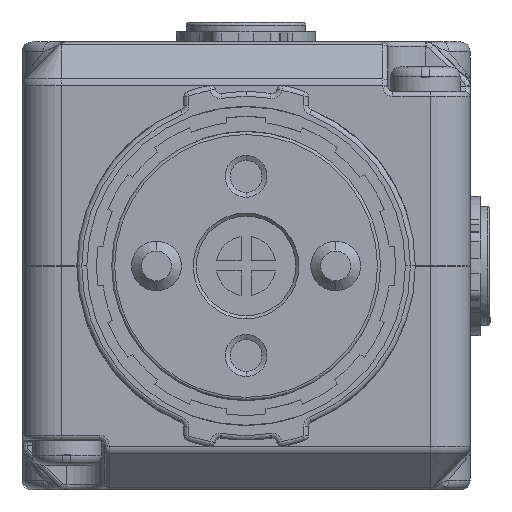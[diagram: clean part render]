
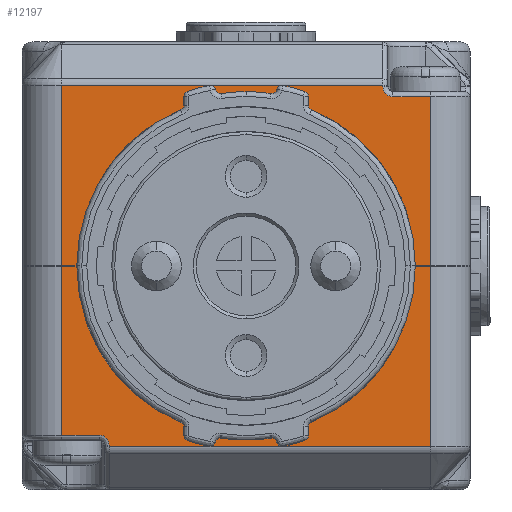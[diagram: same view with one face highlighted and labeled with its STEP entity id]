
A CAD part, front view. The second image highlights one B-rep face of the part: STEP entity #12197.
In plain terms, the highlighted planar face has unit normal (0, -1, 0).
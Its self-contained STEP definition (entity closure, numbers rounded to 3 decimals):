
#170 = DIRECTION ( 'NONE',  ( 0., 0., -1. ) ) ;
#343 = EDGE_CURVE ( 'NONE', #38930, #20637, #19521, .T. ) ;
#666 = DIRECTION ( 'NONE',  ( -1., 0., 0. ) ) ;
#1453 = LINE ( 'NONE', #21931, #29150 ) ;
#1990 = EDGE_CURVE ( 'NONE', #28462, #29375, #8835, .T. ) ;
#2221 = DIRECTION ( 'NONE',  ( 1., 0., 0. ) ) ;
#2497 = LINE ( 'NONE', #23404, #35723 ) ;
#2746 = ORIENTED_EDGE ( 'NONE', *, *, #5090, .T. ) ;
#3076 = ORIENTED_EDGE ( 'NONE', *, *, #30059, .F. ) ;
#3426 = CARTESIAN_POINT ( 'NONE',  ( -23.321, -20.132, 57.005 ) ) ;
#3773 = DIRECTION ( 'NONE',  ( 0., 0., 1. ) ) ;
#3867 = ORIENTED_EDGE ( 'NONE', *, *, #33394, .T. ) ;
#4134 = EDGE_LOOP ( 'NONE', ( #15207, #21468, #14373, #3867, #23503, #30974, #5547, #2746, #18899, #16372, #3076, #20361, #39475, #30548, #33666, #11699, #35603, #31681 ) ) ;
#4299 = VECTOR ( 'NONE', #2221, 1000. ) ;
#4551 = CARTESIAN_POINT ( 'NONE',  ( 6.179, -20.132, 71.505 ) ) ;
#4737 = CARTESIAN_POINT ( 'NONE',  ( 2.429, -20.132, 66.005 ) ) ;
#4925 = VECTOR ( 'NONE', #34954, 1000. ) ;
#5090 = EDGE_CURVE ( 'NONE', #39727, #31071, #16325, .T. ) ;
#5092 = CARTESIAN_POINT ( 'NONE',  ( -30.821, -20.132, 49.01 ) ) ;
#5099 = VERTEX_POINT ( 'NONE', #5092 ) ;
#5160 = CARTESIAN_POINT ( 'NONE',  ( -34.821, -20.132, 49.01 ) ) ;
#5334 = CARTESIAN_POINT ( 'NONE',  ( -1.321, -20.132, 49.01 ) ) ;
#5547 = ORIENTED_EDGE ( 'NONE', *, *, #8836, .T. ) ;
#5857 = CARTESIAN_POINT ( 'NONE',  ( -1.321, -20.132, 49. ) ) ;
#5912 = VECTOR ( 'NONE', #10889, 1000. ) ;
#5946 = CARTESIAN_POINT ( 'NONE',  ( -1.321, -20.132, 57.005 ) ) ;
#6091 = VERTEX_POINT ( 'NONE', #34234 ) ;
#6597 = VECTOR ( 'NONE', #170, 1000. ) ;
#6644 = EDGE_CURVE ( 'NONE', #31071, #5099, #29248, .T. ) ;
#7282 = AXIS2_PLACEMENT_3D ( 'NONE', #38946, #22914, #3773 ) ;
#7486 = CARTESIAN_POINT ( 'NONE',  ( 1.429, -20.132, 67.091 ) ) ;
#8270 = EDGE_CURVE ( 'NONE', #9321, #39621, #22116, .T. ) ;
#8770 = EDGE_CURVE ( 'NONE', #14725, #18382, #35670, .T. ) ;
#8835 = CIRCLE ( 'NONE', #7282, 1. ) ;
#8836 = EDGE_CURVE ( 'NONE', #29375, #39727, #11470, .T. ) ;
#9321 = VERTEX_POINT ( 'NONE', #10229 ) ;
#9436 = EDGE_CURVE ( 'NONE', #14529, #18382, #26549, .T. ) ;
#9543 = PLANE ( 'NONE',  #36072 ) ;
#10073 = CARTESIAN_POINT ( 'NONE',  ( 1.929, -20.132, 66.005 ) ) ;
#10229 = CARTESIAN_POINT ( 'NONE',  ( -26.071, -20.132, 31.005 ) ) ;
#10501 = DIRECTION ( 'NONE',  ( 0., 1., 0. ) ) ;
#10585 = VECTOR ( 'NONE', #30248, 1000. ) ;
#10729 = LINE ( 'NONE', #23017, #28419 ) ;
#10889 = DIRECTION ( 'NONE',  ( -1., 0., 0. ) ) ;
#11470 = LINE ( 'NONE', #41389, #27601 ) ;
#11699 = ORIENTED_EDGE ( 'NONE', *, *, #8270, .T. ) ;
#11852 = CARTESIAN_POINT ( 'NONE',  ( -30.821, -20.132, 67.091 ) ) ;
#12197 = ADVANCED_FACE ( 'NONE', ( #28368 ), #9543, .F. ) ;
#12779 = VERTEX_POINT ( 'NONE', #18607 ) ;
#12851 = CARTESIAN_POINT ( 'NONE',  ( -26.071, -20.132, 30.919 ) ) ;
#12870 = LINE ( 'NONE', #5160, #4299 ) ;
#13539 = DIRECTION ( 'NONE',  ( 0., 0., 1. ) ) ;
#14373 = ORIENTED_EDGE ( 'NONE', *, *, #18207, .T. ) ;
#14529 = VERTEX_POINT ( 'NONE', #26202 ) ;
#14725 = VERTEX_POINT ( 'NONE', #5334 ) ;
#15036 = CIRCLE ( 'NONE', #34422, 1. ) ;
#15207 = ORIENTED_EDGE ( 'NONE', *, *, #9436, .T. ) ;
#15738 = VECTOR ( 'NONE', #35370, 1000. ) ;
#15949 = VERTEX_POINT ( 'NONE', #30502 ) ;
#15953 = CARTESIAN_POINT ( 'NONE',  ( -26.571, -20.132, 32.005 ) ) ;
#16279 = LINE ( 'NONE', #3426, #15738 ) ;
#16325 = LINE ( 'NONE', #11852, #39422 ) ;
#16372 = ORIENTED_EDGE ( 'NONE', *, *, #32426, .T. ) ;
#17011 = CARTESIAN_POINT ( 'NONE',  ( -27.071, -20.132, 31.005 ) ) ;
#17620 = EDGE_CURVE ( 'NONE', #21991, #14529, #33558, .T. ) ;
#18207 = EDGE_CURVE ( 'NONE', #14725, #6091, #12870, .T. ) ;
#18382 = VERTEX_POINT ( 'NONE', #5857 ) ;
#18457 = EDGE_CURVE ( 'NONE', #12779, #28462, #40529, .T. ) ;
#18607 = CARTESIAN_POINT ( 'NONE',  ( 6.179, -20.132, 66.005 ) ) ;
#18899 = ORIENTED_EDGE ( 'NONE', *, *, #6644, .T. ) ;
#19521 = LINE ( 'NONE', #35488, #23538 ) ;
#19551 = CARTESIAN_POINT ( 'NONE',  ( 6.179, -20.132, 30.919 ) ) ;
#20361 = ORIENTED_EDGE ( 'NONE', *, *, #38535, .T. ) ;
#20637 = VERTEX_POINT ( 'NONE', #34142 ) ;
#21468 = ORIENTED_EDGE ( 'NONE', *, *, #8770, .F. ) ;
#21791 = DIRECTION ( 'NONE',  ( 1., 0., 0. ) ) ;
#21931 = CARTESIAN_POINT ( 'NONE',  ( 6.179, -20.132, 30.919 ) ) ;
#21991 = VERTEX_POINT ( 'NONE', #19551 ) ;
#22082 = EDGE_CURVE ( 'NONE', #15949, #9321, #15036, .T. ) ;
#22116 = LINE ( 'NONE', #32309, #23124 ) ;
#22217 = CARTESIAN_POINT ( 'NONE',  ( -34.821, -20.132, 71.505 ) ) ;
#22388 = DIRECTION ( 'NONE',  ( 0., 0., -1. ) ) ;
#22420 = VECTOR ( 'NONE', #35423, 1000. ) ;
#22555 = DIRECTION ( 'NONE',  ( 1., 0., 0. ) ) ;
#22914 = DIRECTION ( 'NONE',  ( 0., 1., 0. ) ) ;
#23017 = CARTESIAN_POINT ( 'NONE',  ( -34.821, -20.132, 49. ) ) ;
#23124 = VECTOR ( 'NONE', #41446, 1000. ) ;
#23339 = DIRECTION ( 'NONE',  ( 0., 0., 1. ) ) ;
#23404 = CARTESIAN_POINT ( 'NONE',  ( 6.179, -20.132, 71.505 ) ) ;
#23503 = ORIENTED_EDGE ( 'NONE', *, *, #18457, .T. ) ;
#23531 = VECTOR ( 'NONE', #22555, 1000. ) ;
#23538 = VECTOR ( 'NONE', #22388, 1000. ) ;
#23924 = VERTEX_POINT ( 'NONE', #30319 ) ;
#24483 = EDGE_CURVE ( 'NONE', #39621, #21991, #1453, .T. ) ;
#25744 = CARTESIAN_POINT ( 'NONE',  ( -30.821, -20.132, 71.505 ) ) ;
#25891 = CARTESIAN_POINT ( 'NONE',  ( 1.429, -20.132, 67.005 ) ) ;
#26202 = CARTESIAN_POINT ( 'NONE',  ( 6.179, -20.132, 49. ) ) ;
#26549 = LINE ( 'NONE', #33282, #5912 ) ;
#26617 = CARTESIAN_POINT ( 'NONE',  ( -34.821, -20.132, 49.01 ) ) ;
#27601 = VECTOR ( 'NONE', #35081, 1000. ) ;
#28058 = LINE ( 'NONE', #15953, #23531 ) ;
#28368 = FACE_OUTER_BOUND ( 'NONE', #4134, .T. ) ;
#28419 = VECTOR ( 'NONE', #666, 1000. ) ;
#28462 = VERTEX_POINT ( 'NONE', #4737 ) ;
#29150 = VECTOR ( 'NONE', #21791, 1000. ) ;
#29248 = LINE ( 'NONE', #25744, #6597 ) ;
#29375 = VERTEX_POINT ( 'NONE', #25891 ) ;
#30059 = EDGE_CURVE ( 'NONE', #23924, #30834, #16279, .T. ) ;
#30248 = DIRECTION ( 'NONE',  ( 1., 0., 0. ) ) ;
#30319 = CARTESIAN_POINT ( 'NONE',  ( -23.321, -20.132, 49. ) ) ;
#30502 = CARTESIAN_POINT ( 'NONE',  ( -27.071, -20.132, 32.005 ) ) ;
#30548 = ORIENTED_EDGE ( 'NONE', *, *, #34850, .T. ) ;
#30834 = VERTEX_POINT ( 'NONE', #35265 ) ;
#30974 = ORIENTED_EDGE ( 'NONE', *, *, #1990, .T. ) ;
#31071 = VERTEX_POINT ( 'NONE', #33961 ) ;
#31073 = CARTESIAN_POINT ( 'NONE',  ( -30.821, -20.132, 49. ) ) ;
#31681 = ORIENTED_EDGE ( 'NONE', *, *, #17620, .T. ) ;
#31922 = DIRECTION ( 'NONE',  ( 0., 0., 1. ) ) ;
#32309 = CARTESIAN_POINT ( 'NONE',  ( -26.071, -20.132, 71.505 ) ) ;
#32426 = EDGE_CURVE ( 'NONE', #5099, #30834, #34802, .T. ) ;
#33282 = CARTESIAN_POINT ( 'NONE',  ( -34.821, -20.132, 49. ) ) ;
#33394 = EDGE_CURVE ( 'NONE', #6091, #12779, #2497, .T. ) ;
#33558 = LINE ( 'NONE', #4551, #37068 ) ;
#33666 = ORIENTED_EDGE ( 'NONE', *, *, #22082, .T. ) ;
#33961 = CARTESIAN_POINT ( 'NONE',  ( -30.821, -20.132, 67.091 ) ) ;
#33974 = DIRECTION ( 'NONE',  ( 0., 0., 1. ) ) ;
#34142 = CARTESIAN_POINT ( 'NONE',  ( -30.821, -20.132, 32.005 ) ) ;
#34234 = CARTESIAN_POINT ( 'NONE',  ( 6.179, -20.132, 49.01 ) ) ;
#34422 = AXIS2_PLACEMENT_3D ( 'NONE', #17011, #10501, #23339 ) ;
#34802 = LINE ( 'NONE', #26617, #10585 ) ;
#34850 = EDGE_CURVE ( 'NONE', #20637, #15949, #28058, .T. ) ;
#34954 = DIRECTION ( 'NONE',  ( 0., 0., -1. ) ) ;
#35081 = DIRECTION ( 'NONE',  ( 0., 0., 1. ) ) ;
#35265 = CARTESIAN_POINT ( 'NONE',  ( -23.321, -20.132, 49.01 ) ) ;
#35370 = DIRECTION ( 'NONE',  ( 0., 0., 1. ) ) ;
#35423 = DIRECTION ( 'NONE',  ( -1., 0., 0. ) ) ;
#35488 = CARTESIAN_POINT ( 'NONE',  ( -30.821, -20.132, 71.505 ) ) ;
#35603 = ORIENTED_EDGE ( 'NONE', *, *, #24483, .T. ) ;
#35670 = LINE ( 'NONE', #5946, #4925 ) ;
#35723 = VECTOR ( 'NONE', #13539, 1000. ) ;
#36072 = AXIS2_PLACEMENT_3D ( 'NONE', #22217, #38394, #31922 ) ;
#37068 = VECTOR ( 'NONE', #33974, 1000. ) ;
#37184 = DIRECTION ( 'NONE',  ( -1., 0., 0. ) ) ;
#38394 = DIRECTION ( 'NONE',  ( 0., 1., 0. ) ) ;
#38535 = EDGE_CURVE ( 'NONE', #23924, #38930, #10729, .T. ) ;
#38930 = VERTEX_POINT ( 'NONE', #31073 ) ;
#38946 = CARTESIAN_POINT ( 'NONE',  ( 2.429, -20.132, 67.005 ) ) ;
#39422 = VECTOR ( 'NONE', #37184, 1000. ) ;
#39475 = ORIENTED_EDGE ( 'NONE', *, *, #343, .T. ) ;
#39621 = VERTEX_POINT ( 'NONE', #12851 ) ;
#39727 = VERTEX_POINT ( 'NONE', #7486 ) ;
#40529 = LINE ( 'NONE', #10073, #22420 ) ;
#41389 = CARTESIAN_POINT ( 'NONE',  ( 1.429, -20.132, 71.505 ) ) ;
#41446 = DIRECTION ( 'NONE',  ( 0., 0., -1. ) ) ;
